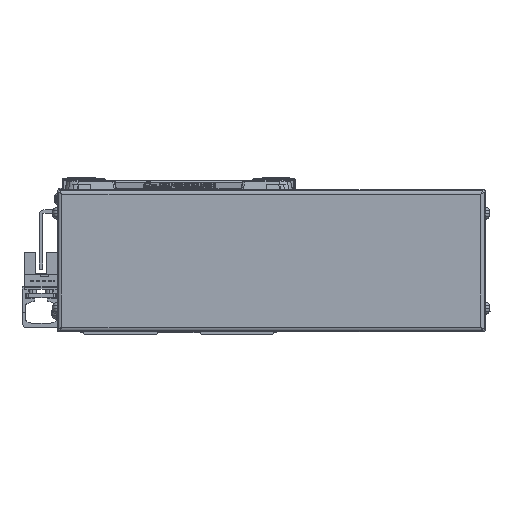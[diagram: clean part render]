
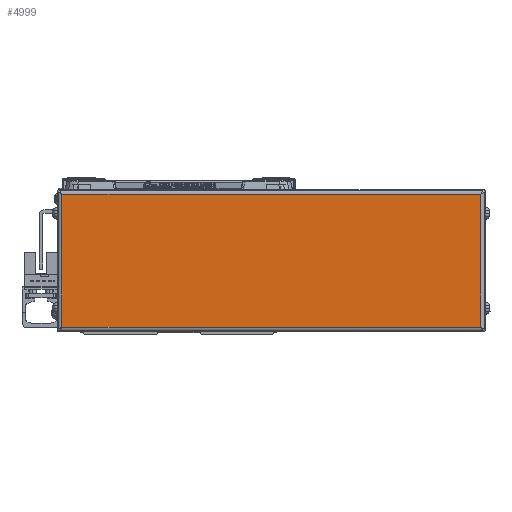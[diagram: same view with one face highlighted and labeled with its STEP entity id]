
A CAD part, left-side view. The second image highlights one B-rep face of the part: STEP entity #4999.
In plain terms, the highlighted planar face has unit normal (-1, 0, 0).
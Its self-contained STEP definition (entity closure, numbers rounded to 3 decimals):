
#4999=ADVANCED_FACE('',(#11390),#11391,.T.);
#11390=FACE_OUTER_BOUND('',#19850,.T.);
#11391=PLANE('',#19851);
#19850=EDGE_LOOP('',(#34134,#34135,#34136,#34137));
#19851=AXIS2_PLACEMENT_3D('',#34138,#34139,#34140);
#34134=ORIENTED_EDGE('',*,*,#52764,.F.);
#34135=ORIENTED_EDGE('',*,*,#50157,.F.);
#34136=ORIENTED_EDGE('',*,*,#48392,.F.);
#34137=ORIENTED_EDGE('',*,*,#50556,.F.);
#34138=CARTESIAN_POINT('',(-616.,-39.,0.));
#34139=DIRECTION('',(-1.0,0.,0.));
#34140=DIRECTION('',(0.,0.,1.0));
#48392=EDGE_CURVE('',#57903,#57905,#57906,.T.);
#50157=EDGE_CURVE('',#57905,#60954,#60955,.T.);
#50556=EDGE_CURVE('',#61581,#57903,#61583,.T.);
#52764=EDGE_CURVE('',#60954,#61581,#64992,.T.);
#57903=VERTEX_POINT('',#71512);
#57905=VERTEX_POINT('',#71514);
#57906=LINE('',#71515,#71516);
#60954=VERTEX_POINT('',#75639);
#60955=LINE('',#75640,#75641);
#61581=VERTEX_POINT('',#76477);
#61583=LINE('',#76479,#76480);
#64992=LINE('',#81256,#81257);
#71512=CARTESIAN_POINT('',(-616.,-127.2,-28.));
#71514=CARTESIAN_POINT('',(-616.0,49.2,-28.));
#71515=CARTESIAN_POINT('',(-616.,-39.,-28.));
#71516=VECTOR('',#89011,10.0);
#75639=CARTESIAN_POINT('',(-616.,49.2,28.));
#75640=CARTESIAN_POINT('',(-616.,49.2,0.));
#75641=VECTOR('',#91504,10.0);
#76477=CARTESIAN_POINT('',(-616.,-127.2,28.));
#76479=CARTESIAN_POINT('',(-616.,-127.2,0.));
#76480=VECTOR('',#92027,10.0);
#81256=CARTESIAN_POINT('',(-616.,-39.,28.));
#81257=VECTOR('',#94992,10.0);
#89011=DIRECTION('',(0.,1.0,0.));
#91504=DIRECTION('',(0.,0.,1.0));
#92027=DIRECTION('',(0.,0.,-1.0));
#94992=DIRECTION('',(0.,-1.0,0.));
